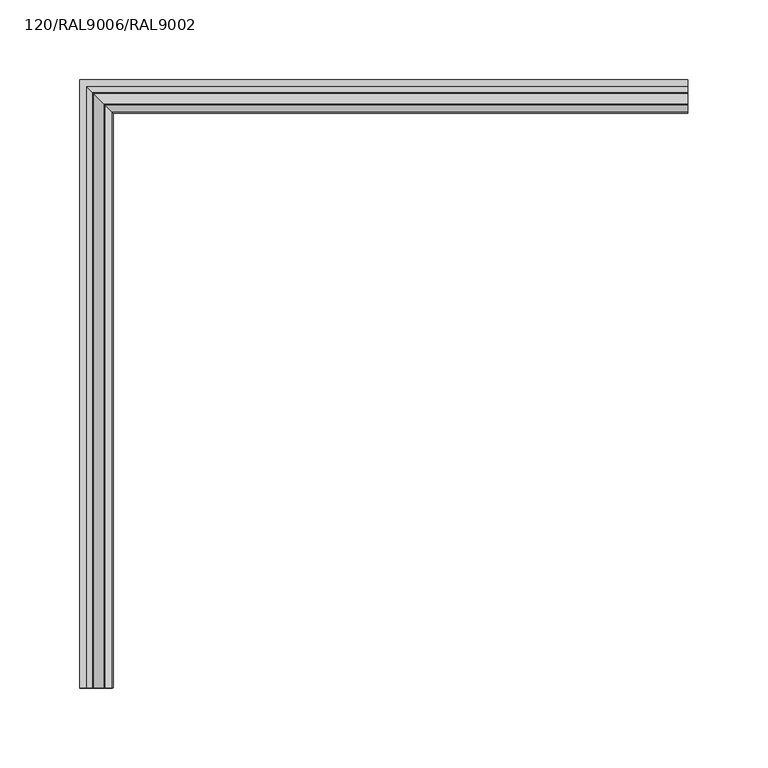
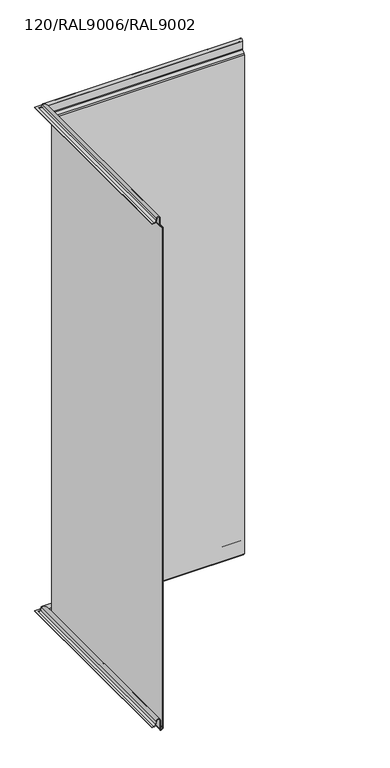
"""IFC4 building model written with IfcOpenShell, lengths in millimetres: plate geometry, TR_C_H_FTV_Corner_Tr_B : 120/RAL9006/RAL9002."""

from ifc_helpers import new_model, si_unit, frame, origin, place, context, project, spatial, polyline, circle_curve, ellipse_curve, source, transform, mapped, element, save
from ifc_brep_helpers import plane_surface, cylinder_surface, revolved_surface, advanced_brep


def plate_120_ral9006_ral9002_f0a6c20e(model_context):
    return source(origin(), model_context, "Body", "AdvancedBrep", [
        advanced_brep(
        [(240.0, -99.0, 1000.6000012), (240.0, -103.1130328, 1000.6000012), (240.0, -106.8060618, 1003.6988205), (240.0, -107.5493748, 1007.9143577), (240.0, -114.0, 1007.3500012), (240.0, -114.0, 992.6000012), (240.0, -114.732233, 990.8322342), (240.0, -119.1213203, 986.4431469), (240.0, -120.0, 984.3218266), (240.0, -120.0, -5.018628), (240.0, -119.1945436, -6.9631716), (240.0, -117.3288582, -8.8288571), (240.0, -114.0, -7.4499988), (240.0, -114.0, 10.1500012), (240.0, -107.1524133, 10.7490874), (240.0, -106.085588, 4.6988205), (240.0, -102.3925589, 1.6000012), (240.0, -99.0, 1.6000012), (240.0, -99.0, 2.4000012), (240.0, -102.3925589, 2.4000012), (240.0, -105.2977418, 4.837739), (240.0, -106.364567, 10.8880059), (240.0, -114.8, 10.1500012), (240.0, -114.8, -7.4499988), (240.0, -116.7631728, -8.2631716), (240.0, -118.6288582, -6.3974862), (240.0, -119.2, -5.018628), (240.0, -119.2, 984.3218266), (240.0, -118.5556349, 985.8774615), (240.0, -114.1665476, 990.2665488), (240.0, -113.2, 992.6000012), (240.0, -113.2, 1007.3500012), (240.0, -108.337221, 1007.7754392), (240.0, -107.5939081, 1003.559902), (240.0, -103.1130328, 999.8000012), (240.0, -99.0, 999.8000012), (-141.0, -99.0, 1000.6000012), (-141.0, -480.0, 1000.6000012), (-136.8869672, -480.0, 1000.6000012), (-136.8869672, -103.1130328, 1000.6000012), (-133.1939382, -106.8060618, 1003.6988205), (-132.4506252, -107.5493748, 1007.9143577), (-126.0, -114.0, 1007.3500012), (-126.0, -114.0, 992.6000012), (-125.267767, -114.732233, 990.8322342), (-120.8786797, -119.1213203, 986.4431469), (-120.0, -120.0, 984.3218266), (-120.0, -120.0, -5.018628), (-120.8054564, -119.1945436, -6.9631716), (-122.6711418, -117.3288582, -8.8288571), (-126.0, -114.0, -7.4499988), (-126.0, -114.0, 10.1500012), (-132.8475867, -107.1524133, 10.7490874), (-133.914412, -106.085588, 4.6988205), (-137.6074411, -102.3925589, 1.6000012), (-137.6074411, -480.0, 1.6000012), (-141.0, -480.0, 1.6000012), (-141.0, -99.0, 1.6000012), (-141.0, -99.0, 2.4000012), (-141.0, -480.0, 2.4000012), (-137.6074411, -480.0, 2.4000012), (-137.6074411, -102.3925589, 2.4000012), (-134.7022582, -105.2977418, 4.837739), (-133.635433, -106.364567, 10.8880059), (-125.2, -114.8, 10.1500012), (-125.2, -114.8, -7.4499988), (-123.2368272, -116.7631728, -8.2631716), (-121.3711418, -118.6288582, -6.3974862), (-120.8, -119.2, -5.018628), (-120.8, -119.2, 984.3218266), (-121.4443651, -118.5556349, 985.8774615), (-125.8334524, -114.1665476, 990.2665488), (-126.8, -113.2, 992.6000012), (-126.8, -113.2, 1007.3500012), (-131.662779, -108.337221, 1007.7754392), (-132.4060919, -107.5939081, 1003.559902), (-136.8869672, -103.1130328, 999.8000012), (-136.8869672, -480.0, 999.8000012), (-141.0, -480.0, 999.8000012), (-141.0, -99.0, 999.8000012), (-132.4060919, -480.0, 1003.559902), (-131.662779, -480.0, 1007.7754392), (-126.8, -480.0, 1007.3500012), (-126.8, -480.0, 992.6000012), (-125.8334524, -480.0, 990.2665488), (-121.4443651, -480.0, 985.8774615), (-120.8, -480.0, 984.3218266), (-120.8, -480.0, -5.018628), (-121.3711418, -480.0, -6.3974862), (-123.2368272, -480.0, -8.2631716), (-125.2, -480.0, -7.4499988), (-125.2, -480.0, 10.1500012), (-133.635433, -480.0, 10.8880059), (-134.7022582, -480.0, 4.837739), (-133.914412, -480.0, 4.6988205), (-132.8475867, -480.0, 10.7490874), (-126.0, -480.0, 10.1500012), (-126.0, -480.0, -7.4499988), (-122.6711418, -480.0, -8.8288571), (-120.8054564, -480.0, -6.9631716), (-120.0, -480.0, -5.018628), (-120.0, -480.0, 984.3218266), (-120.8786797, -480.0, 986.4431469), (-125.267767, -480.0, 990.8322342), (-126.0, -480.0, 992.6000012), (-126.0, -480.0, 1007.3500012), (-132.4506252, -480.0, 1007.9143577), (-133.1939382, -480.0, 1003.6988205)],
        [
            (0, 1),
            (1, 2, circle_curve(frame((240.0, -103.1130328, 1004.3500012), z_axis=(-1.0, 0.0, 0.0), x_axis=(0.0, -1.0, 0.0)), 3.75)),
            (2, 3),
            (3, 4, circle_curve(frame((240.0, -110.75, 1007.3500012), z_axis=(1.0, 0.0, 0.0), x_axis=(0.0, -1.0, 0.0)), 3.25)),
            (4, 5),
            (5, 6, circle_curve(frame((240.0, -116.5, 992.6000012), z_axis=(-1.0, 0.0, 0.0), x_axis=(0.0, -1.0, 0.0)), 2.5)),
            (6, 7),
            (7, 8, circle_curve(frame((240.0, -117.0, 984.3218266), z_axis=(1.0, 0.0, 0.0), x_axis=(0.0, -1.0, 0.0)), 3.0)),
            (8, 9),
            (9, 10, circle_curve(frame((240.0, -117.25, -5.018628), z_axis=(1.0, 0.0, 0.0), x_axis=(0.0, -1.0, 0.0)), 2.75)),
            (10, 11),
            (11, 12, circle_curve(frame((240.0, -115.95, -7.4499988), z_axis=(1.0, 0.0, 0.0), x_axis=(0.0, -1.0, 0.0)), 1.95)),
            (12, 13),
            (13, 14, circle_curve(frame((240.0, -110.55, 10.1500012), z_axis=(-1.0, 0.0, 0.0), x_axis=(0.0, -1.0, 0.0)), 3.45)),
            (14, 15),
            (15, 16, circle_curve(frame((240.0, -102.3925589, 5.3500012), z_axis=(1.0, 0.0, 0.0), x_axis=(0.0, -1.0, 0.0)), 3.75)),
            (16, 17),
            (17, 18),
            (18, 19),
            (19, 20, circle_curve(frame((240.0, -102.3925589, 5.3500012), z_axis=(-1.0, 0.0, 0.0), x_axis=(0.0, -1.0, 0.0)), 2.95)),
            (20, 21),
            (21, 22, circle_curve(frame((240.0, -110.55, 10.1500012), z_axis=(1.0, 0.0, 0.0), x_axis=(0.0, -1.0, 0.0)), 4.25)),
            (22, 23),
            (23, 24, circle_curve(frame((240.0, -115.95, -7.4499988), z_axis=(-1.0, 0.0, 0.0), x_axis=(0.0, -1.0, 0.0)), 1.15)),
            (24, 25),
            (25, 26, circle_curve(frame((240.0, -117.25, -5.018628), z_axis=(-1.0, 0.0, 0.0), x_axis=(0.0, -1.0, 0.0)), 1.95)),
            (26, 27),
            (27, 28, circle_curve(frame((240.0, -117.0, 984.3218266), z_axis=(-1.0, 0.0, 0.0), x_axis=(0.0, -1.0, 0.0)), 2.2)),
            (28, 29),
            (29, 30, circle_curve(frame((240.0, -116.5, 992.6000012), z_axis=(1.0, 0.0, 0.0), x_axis=(0.0, -1.0, 0.0)), 3.3)),
            (30, 31),
            (31, 32, circle_curve(frame((240.0, -110.75, 1007.3500012), z_axis=(-1.0, 0.0, 0.0), x_axis=(0.0, -1.0, 0.0)), 2.45)),
            (32, 33),
            (33, 34, circle_curve(frame((240.0, -103.1130328, 1004.3500012), z_axis=(1.0, 0.0, 0.0), x_axis=(0.0, -1.0, 0.0)), 4.55)),
            (34, 35),
            (35, 0),
            (0, 36),
            (36, 37),
            (37, 38),
            (38, 39),
            (39, 1),
            (39, 40, ellipse_curve(frame((-136.8869672, -103.1130328, 1004.3500012), z_axis=(-0.7071067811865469, -0.7071067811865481, 0.0), x_axis=(-0.7071067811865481, 0.7071067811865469, 0.0)), 5.3033009, 3.75)),
            (40, 2),
            (40, 41),
            (41, 3),
            (41, 42, ellipse_curve(frame((-129.25, -110.75, 1007.3500012), z_axis=(0.7071067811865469, 0.7071067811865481, 0.0), x_axis=(0.7071067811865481, -0.7071067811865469, 0.0)), 4.5961941, 3.25)),
            (42, 4),
            (42, 43),
            (43, 5),
            (43, 44, ellipse_curve(frame((-123.5, -116.5, 992.6000012), z_axis=(-0.7071067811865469, -0.7071067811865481, 0.0), x_axis=(-0.7071067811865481, 0.7071067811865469, 0.0)), 3.5355339, 2.5)),
            (44, 6),
            (44, 45),
            (45, 7),
            (45, 46, ellipse_curve(frame((-123.0, -117.0, 984.3218266), z_axis=(0.7071067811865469, 0.7071067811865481, 0.0), x_axis=(0.7071067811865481, -0.7071067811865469, 0.0)), 4.2426407, 3.0)),
            (46, 8),
            (46, 47),
            (47, 9),
            (47, 48, ellipse_curve(frame((-122.75, -117.25, -5.018628), z_axis=(0.7071067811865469, 0.7071067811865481, 0.0), x_axis=(0.7071067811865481, -0.7071067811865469, 0.0)), 3.8890873, 2.75)),
            (48, 10),
            (48, 49),
            (49, 11),
            (49, 50, ellipse_curve(frame((-124.05, -115.95, -7.4499988), z_axis=(0.7071067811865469, 0.7071067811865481, 0.0), x_axis=(0.7071067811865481, -0.7071067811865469, 0.0)), 2.7577164, 1.95)),
            (50, 12),
            (50, 51),
            (51, 13),
            (51, 52, ellipse_curve(frame((-129.45, -110.55, 10.1500012), z_axis=(-0.7071067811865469, -0.7071067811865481, 0.0), x_axis=(-0.7071067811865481, 0.7071067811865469, 0.0)), 4.8790368, 3.45)),
            (52, 14),
            (52, 53),
            (53, 15),
            (53, 54, ellipse_curve(frame((-137.6074411, -102.3925589, 5.3500012), z_axis=(0.7071067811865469, 0.7071067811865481, 0.0), x_axis=(0.7071067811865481, -0.7071067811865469, 0.0)), 5.3033009, 3.75)),
            (54, 16),
            (54, 55),
            (55, 56),
            (56, 57),
            (57, 17),
            (57, 58),
            (58, 18),
            (58, 59),
            (59, 60),
            (60, 61),
            (61, 19),
            (61, 62, ellipse_curve(frame((-137.6074411, -102.3925589, 5.3500012), z_axis=(-0.7071067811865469, -0.7071067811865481, 0.0), x_axis=(-0.7071067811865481, 0.7071067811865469, 0.0)), 4.17193, 2.95)),
            (62, 20),
            (62, 63),
            (63, 21),
            (63, 64, ellipse_curve(frame((-129.45, -110.55, 10.1500012), z_axis=(0.7071067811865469, 0.7071067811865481, 0.0), x_axis=(0.7071067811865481, -0.7071067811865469, 0.0)), 6.0104076, 4.25)),
            (64, 22),
            (64, 65),
            (65, 23),
            (65, 66, ellipse_curve(frame((-124.05, -115.95, -7.4499988), z_axis=(-0.7071067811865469, -0.7071067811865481, 0.0), x_axis=(-0.7071067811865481, 0.7071067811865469, 0.0)), 1.6263456, 1.15)),
            (66, 24),
            (66, 67),
            (67, 25),
            (67, 68, ellipse_curve(frame((-122.75, -117.25, -5.018628), z_axis=(-0.7071067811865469, -0.7071067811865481, 0.0), x_axis=(-0.7071067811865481, 0.7071067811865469, 0.0)), 2.7577164, 1.95)),
            (68, 26),
            (68, 69),
            (69, 27),
            (69, 70, ellipse_curve(frame((-123.0, -117.0, 984.3218266), z_axis=(-0.7071067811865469, -0.7071067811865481, 0.0), x_axis=(-0.7071067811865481, 0.7071067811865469, 0.0)), 3.1112698, 2.2)),
            (70, 28),
            (70, 71),
            (71, 29),
            (71, 72, ellipse_curve(frame((-123.5, -116.5, 992.6000012), z_axis=(0.7071067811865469, 0.7071067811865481, 0.0), x_axis=(0.7071067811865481, -0.7071067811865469, 0.0)), 4.6669048, 3.3)),
            (72, 30),
            (72, 73),
            (73, 31),
            (73, 74, ellipse_curve(frame((-129.25, -110.75, 1007.3500012), z_axis=(-0.7071067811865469, -0.7071067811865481, 0.0), x_axis=(-0.7071067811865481, 0.7071067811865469, 0.0)), 3.4648232, 2.45)),
            (74, 32),
            (74, 75),
            (75, 33),
            (75, 76, ellipse_curve(frame((-136.8869672, -103.1130328, 1004.3500012), z_axis=(0.7071067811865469, 0.7071067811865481, 0.0), x_axis=(0.7071067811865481, -0.7071067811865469, 0.0)), 6.4346717, 4.55)),
            (76, 34),
            (76, 77),
            (77, 78),
            (78, 79),
            (79, 35),
            (79, 36),
            (37, 78),
            (77, 80, circle_curve(frame((-136.8869672, -480.0, 1004.3500012), z_axis=(0.0, -1.0, 0.0), x_axis=(1.0, 0.0, 0.0)), 4.55)),
            (80, 81),
            (81, 82, circle_curve(frame((-129.25, -480.0, 1007.3500012), z_axis=(0.0, 1.0, 0.0), x_axis=(1.0, 0.0, 0.0)), 2.45)),
            (82, 83),
            (83, 84, circle_curve(frame((-123.5, -480.0, 992.6000012), z_axis=(0.0, -1.0, 0.0), x_axis=(1.0, 0.0, 0.0)), 3.3)),
            (84, 85),
            (85, 86, circle_curve(frame((-123.0, -480.0, 984.3218266), z_axis=(0.0, 1.0, 0.0), x_axis=(1.0, 0.0, 0.0)), 2.2)),
            (86, 87),
            (87, 88, circle_curve(frame((-122.75, -480.0, -5.018628), z_axis=(0.0, 1.0, 0.0), x_axis=(1.0, 0.0, 0.0)), 1.95)),
            (88, 89),
            (89, 90, circle_curve(frame((-124.05, -480.0, -7.4499988), z_axis=(0.0, 1.0, 0.0), x_axis=(1.0, 0.0, 0.0)), 1.15)),
            (90, 91),
            (91, 92, circle_curve(frame((-129.45, -480.0, 10.1500012), z_axis=(0.0, -1.0, 0.0), x_axis=(1.0, 0.0, 0.0)), 4.25)),
            (92, 93),
            (93, 60, circle_curve(frame((-137.6074411, -480.0, 5.3500012), z_axis=(0.0, 1.0, 0.0), x_axis=(1.0, 0.0, 0.0)), 2.95)),
            (59, 56),
            (55, 94, circle_curve(frame((-137.6074411, -480.0, 5.3500012), z_axis=(0.0, -1.0, 0.0), x_axis=(1.0, 0.0, 0.0)), 3.75)),
            (94, 95),
            (95, 96, circle_curve(frame((-129.45, -480.0, 10.1500012), z_axis=(0.0, 1.0, 0.0), x_axis=(1.0, 0.0, 0.0)), 3.45)),
            (96, 97),
            (97, 98, circle_curve(frame((-124.05, -480.0, -7.4499988), z_axis=(0.0, -1.0, 0.0), x_axis=(1.0, 0.0, 0.0)), 1.95)),
            (98, 99),
            (99, 100, circle_curve(frame((-122.75, -480.0, -5.018628), z_axis=(0.0, -1.0, 0.0), x_axis=(1.0, 0.0, 0.0)), 2.75)),
            (100, 101),
            (101, 102, circle_curve(frame((-123.0, -480.0, 984.3218266), z_axis=(0.0, -1.0, 0.0), x_axis=(1.0, 0.0, 0.0)), 3.0)),
            (102, 103),
            (103, 104, circle_curve(frame((-123.5, -480.0, 992.6000012), z_axis=(0.0, 1.0, 0.0), x_axis=(1.0, 0.0, 0.0)), 2.5)),
            (104, 105),
            (105, 106, circle_curve(frame((-129.25, -480.0, 1007.3500012), z_axis=(0.0, -1.0, 0.0), x_axis=(1.0, 0.0, 0.0)), 3.25)),
            (106, 107),
            (107, 38, circle_curve(frame((-136.8869672, -480.0, 1004.3500012), z_axis=(0.0, 1.0, 0.0), x_axis=(1.0, 0.0, 0.0)), 3.75)),
            (107, 40),
            (106, 41),
            (105, 42),
            (104, 43),
            (103, 44),
            (102, 45),
            (101, 46),
            (100, 47),
            (99, 48),
            (98, 49),
            (97, 50),
            (96, 51),
            (95, 52),
            (94, 53),
            (93, 62),
            (92, 63),
            (91, 64),
            (90, 65),
            (89, 66),
            (88, 67),
            (87, 68),
            (86, 69),
            (85, 70),
            (84, 71),
            (83, 72),
            (82, 73),
            (81, 74),
            (80, 75),
        ],
        [
            plane_surface(frame((240.0, 0.0, 0.0), z_axis=(1.0, 0.0, 0.0), x_axis=(0.0, 0.0, 1.0))),
            plane_surface(frame((240.0, -99.0, 1000.6000012), z_axis=(0.0, 0.0, 1.0), x_axis=(-1.0, 0.0, 0.0))),
            revolved_surface(polyline([(-140.6369672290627, -106.8630328, 1004.3500012), (240.0, -106.8630328, 1004.3500012)]), (240.0, -103.1130328, 1004.3500012), (-1.0, 0.0, 0.0)),
            plane_surface(frame((240.0, -106.8060618, 1003.6988205), z_axis=(0.0, 0.9848077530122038, 0.17364817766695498), x_axis=(-1.0, 0.0, 0.0))),
            cylinder_surface(frame((240.0, -110.75, 1007.3500012), z_axis=(1.0, 0.0, 0.0), x_axis=(0.0, -1.0, 0.0)), 3.25),
            plane_surface(frame((240.0, -114.0, 1007.3500012), z_axis=(0.0, -1.0, 0.0), x_axis=(-1.0, 0.0, 0.0))),
            revolved_surface(polyline([(-126.0, -119.0, 992.6000012), (240.0, -119.0, 992.6000012)]), (240.0, -116.5, 992.6000012), (-1.0, 0.0, 0.0)),
            plane_surface(frame((240.0, -114.732233, 990.8322342), z_axis=(0.0, -0.7071067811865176, 0.7071067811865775), x_axis=(-1.0, 0.0, 0.0))),
            cylinder_surface(frame((240.0, -117.0, 984.3218266), z_axis=(1.0, 0.0, 0.0), x_axis=(0.0, -1.0, 0.0)), 3.0),
            plane_surface(frame((240.0, -120.0, 984.3218266), z_axis=(0.0, -1.0, 0.0), x_axis=(-1.0, 0.0, 0.0))),
            cylinder_surface(frame((240.0, -117.25, -5.018628), z_axis=(1.0, 0.0, 0.0), x_axis=(0.0, -1.0, 0.0)), 2.75),
            plane_surface(frame((240.0, -119.1945436, -6.9631716), z_axis=(0.0, -0.7071067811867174, -0.7071067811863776), x_axis=(-1.0, 0.0, 0.0))),
            cylinder_surface(frame((240.0, -115.95, -7.4499988), z_axis=(1.0, 0.0, 0.0), x_axis=(0.0, -1.0, 0.0)), 1.95),
            plane_surface(frame((240.0, -114.0, -7.4499988), z_axis=(0.0, 1.0, 0.0), x_axis=(-1.0, 0.0, 0.0))),
            revolved_surface(polyline([(-132.90000000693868, -114.0, 10.1500012), (240.0, -114.0, 10.1500012)]), (240.0, -110.55, 10.1500012), (-1.0, 0.0, 0.0)),
            plane_surface(frame((240.0, -107.1524133, 10.7490874), z_axis=(0.0, -0.9848077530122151, -0.1736481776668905), x_axis=(-1.0, 0.0, 0.0))),
            cylinder_surface(frame((240.0, -102.3925589, 5.3500012), z_axis=(1.0, 0.0, 0.0), x_axis=(0.0, -1.0, 0.0)), 3.75),
            plane_surface(frame((240.0, -102.3925589, 1.6000012), z_axis=(0.0, 0.0, -1.0), x_axis=(-1.0, 0.0, 0.0))),
            plane_surface(frame((240.0, -99.0, 1.6000012), z_axis=(0.0, 1.0, 0.0), x_axis=(-1.0, 0.0, 0.0))),
            plane_surface(frame((240.0, -99.0, 2.4000012), z_axis=(0.0, 0.0, 1.0), x_axis=(-1.0, 0.0, 0.0))),
            revolved_surface(polyline([(-140.55744109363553, -105.3425589, 5.3500012), (240.0, -105.3425589, 5.3500012)]), (240.0, -102.3925589, 5.3500012), (-1.0, 0.0, 0.0)),
            plane_surface(frame((240.0, -105.2977418, 4.837739), z_axis=(0.0, 0.9848077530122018, 0.1736481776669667), x_axis=(-1.0, 0.0, 0.0))),
            cylinder_surface(frame((240.0, -110.55, 10.1500012), z_axis=(1.0, 0.0, 0.0), x_axis=(0.0, -1.0, 0.0)), 4.25),
            plane_surface(frame((240.0, -114.8, 10.1500012), z_axis=(0.0, -1.0, 0.0), x_axis=(-1.0, 0.0, 0.0))),
            revolved_surface(polyline([(-125.20000000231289, -117.10000000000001, -7.4499988), (240.0, -117.10000000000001, -7.4499988)]), (240.0, -115.95, -7.4499988), (-1.0, 0.0, 0.0)),
            plane_surface(frame((240.0, -116.7631728, -8.2631716), z_axis=(0.0, 0.7071067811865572, 0.7071067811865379), x_axis=(-1.0, 0.0, 0.0))),
            revolved_surface(polyline([(-124.69999996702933, -119.2, -5.018628), (240.0, -119.2, -5.018628)]), (240.0, -117.25, -5.018628), (-1.0, 0.0, 0.0)),
            plane_surface(frame((240.0, -119.2, -5.018628), z_axis=(0.0, 1.0, 0.0), x_axis=(-1.0, 0.0, 0.0))),
            revolved_surface(polyline([(-125.19999997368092, -119.2, 984.3218266), (240.0, -119.2, 984.3218266)]), (240.0, -117.0, 984.3218266), (-1.0, 0.0, 0.0)),
            plane_surface(frame((240.0, -118.5556349, 985.8774615), z_axis=(0.0, 0.7071067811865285, -0.7071067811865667), x_axis=(-1.0, 0.0, 0.0))),
            cylinder_surface(frame((240.0, -116.5, 992.6000012), z_axis=(1.0, 0.0, 0.0), x_axis=(0.0, -1.0, 0.0)), 3.3),
            plane_surface(frame((240.0, -113.2, 992.6000012), z_axis=(0.0, 1.0, 0.0), x_axis=(-1.0, 0.0, 0.0))),
            revolved_surface(polyline([(-131.69999998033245, -113.2, 1007.3500012), (240.0, -113.2, 1007.3500012)]), (240.0, -110.75, 1007.3500012), (-1.0, 0.0, 0.0)),
            plane_surface(frame((240.0, -108.337221, 1007.7754392), z_axis=(0.0, -0.9848077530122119, -0.173648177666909), x_axis=(-1.0, 0.0, 0.0))),
            cylinder_surface(frame((240.0, -103.1130328, 1004.3500012), z_axis=(1.0, 0.0, 0.0), x_axis=(0.0, -1.0, 0.0)), 4.55),
            plane_surface(frame((240.0, -103.1130328, 999.8000012), z_axis=(0.0, 0.0, -1.0), x_axis=(-1.0, 0.0, 0.0))),
            plane_surface(frame((240.0, -99.0, 999.8000012), z_axis=(0.0, 1.0, 0.0), x_axis=(-1.0, 0.0, 0.0))),
            plane_surface(frame((-240.0, -480.0, 0.0), z_axis=(0.0, -1.0, 0.0), x_axis=(0.0, 0.0, 1.0))),
            revolved_surface(polyline([(-133.1369672, -480.0, 1004.3500012), (-133.1369672, -99.36303277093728, 1004.3500012)]), (-136.8869672, 0.0, 1004.3500012), (0.0, -1.0, 0.0)),
            plane_surface(frame((-133.1939382, -106.8060618, 1003.6988205), z_axis=(-0.9848077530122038, 0.0, 0.17364817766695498), x_axis=(0.0, -1.0, 0.0))),
            cylinder_surface(frame((-129.25, 0.0, 1007.3500012), z_axis=(0.0, 1.0, 0.0), x_axis=(1.0, 0.0, 0.0)), 3.25),
            plane_surface(frame((-126.0, -114.0, 1007.3500012), z_axis=(1.0, 0.0, 0.0), x_axis=(0.0, -1.0, 0.0))),
            revolved_surface(polyline([(-121.0, -480.0, 992.6000012), (-121.0, -114.0, 992.6000012)]), (-123.5, 0.0, 992.6000012), (0.0, -1.0, 0.0)),
            plane_surface(frame((-125.267767, -114.732233, 990.8322342), z_axis=(0.7071067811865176, 0.0, 0.7071067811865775), x_axis=(0.0, -1.0, 0.0))),
            cylinder_surface(frame((-123.0, 0.0, 984.3218266), z_axis=(0.0, 1.0, 0.0), x_axis=(1.0, 0.0, 0.0)), 3.0),
            plane_surface(frame((-120.0, -120.0, 984.3218266), z_axis=(1.0, 0.0, 0.0), x_axis=(0.0, -1.0, 0.0))),
            cylinder_surface(frame((-122.75, 0.0, -5.018628), z_axis=(0.0, 1.0, 0.0), x_axis=(1.0, 0.0, 0.0)), 2.75),
            plane_surface(frame((-120.8054564, -119.1945436, -6.9631716), z_axis=(0.7071067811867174, 0.0, -0.7071067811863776), x_axis=(0.0, -1.0, 0.0))),
            cylinder_surface(frame((-124.05, 0.0, -7.4499988), z_axis=(0.0, 1.0, 0.0), x_axis=(1.0, 0.0, 0.0)), 1.95),
            plane_surface(frame((-126.0, -114.0, -7.4499988), z_axis=(-1.0, 0.0, 0.0), x_axis=(0.0, -1.0, 0.0))),
            revolved_surface(polyline([(-125.99999999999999, -480.0, 10.1500012), (-125.99999999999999, -107.09999999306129, 10.1500012)]), (-129.45, 0.0, 10.1500012), (0.0, -1.0, 0.0)),
            plane_surface(frame((-132.8475867, -107.1524133, 10.7490874), z_axis=(0.9848077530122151, 0.0, -0.1736481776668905), x_axis=(0.0, -1.0, 0.0))),
            cylinder_surface(frame((-137.6074411, 0.0, 5.3500012), z_axis=(0.0, 1.0, 0.0), x_axis=(1.0, 0.0, 0.0)), 3.75),
            plane_surface(frame((-141.0, -99.0, 1.6000012), z_axis=(-1.0, 0.0, 0.0), x_axis=(0.0, -1.0, 0.0))),
            revolved_surface(polyline([(-134.6574411, -480.0, 5.3500012), (-134.6574411, -99.44255890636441, 5.3500012)]), (-137.6074411, 0.0, 5.3500012), (0.0, -1.0, 0.0)),
            plane_surface(frame((-134.7022582, -105.2977418, 4.837739), z_axis=(-0.9848077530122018, 0.0, 0.1736481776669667), x_axis=(0.0, -1.0, 0.0))),
            cylinder_surface(frame((-129.45, 0.0, 10.1500012), z_axis=(0.0, 1.0, 0.0), x_axis=(1.0, 0.0, 0.0)), 4.25),
            plane_surface(frame((-125.2, -114.8, 10.1500012), z_axis=(1.0, 0.0, 0.0), x_axis=(0.0, -1.0, 0.0))),
            revolved_surface(polyline([(-122.89999999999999, -480.0, -7.4499988), (-122.89999999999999, -114.7999999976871, -7.4499988)]), (-124.05, 0.0, -7.4499988), (0.0, -1.0, 0.0)),
            plane_surface(frame((-123.2368272, -116.7631728, -8.2631716), z_axis=(-0.7071067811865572, 0.0, 0.7071067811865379), x_axis=(0.0, -1.0, 0.0))),
            revolved_surface(polyline([(-120.8, -480.0, -5.018628), (-120.8, -115.30000003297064, -5.018628)]), (-122.75, 0.0, -5.018628), (0.0, -1.0, 0.0)),
            plane_surface(frame((-120.8, -119.2, -5.018628), z_axis=(-1.0, 0.0, 0.0), x_axis=(0.0, -1.0, 0.0))),
            revolved_surface(polyline([(-120.8, -480.0, 984.3218266), (-120.8, -114.80000002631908, 984.3218266)]), (-123.0, 0.0, 984.3218266), (0.0, -1.0, 0.0)),
            plane_surface(frame((-121.4443651, -118.5556349, 985.8774615), z_axis=(-0.7071067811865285, 0.0, -0.7071067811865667), x_axis=(0.0, -1.0, 0.0))),
            cylinder_surface(frame((-123.5, 0.0, 992.6000012), z_axis=(0.0, 1.0, 0.0), x_axis=(1.0, 0.0, 0.0)), 3.3),
            plane_surface(frame((-126.8, -113.2, 992.6000012), z_axis=(-1.0, 0.0, 0.0), x_axis=(0.0, -1.0, 0.0))),
            revolved_surface(polyline([(-126.8, -480.0, 1007.3500012), (-126.8, -108.30000001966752, 1007.3500012)]), (-129.25, 0.0, 1007.3500012), (0.0, -1.0, 0.0)),
            plane_surface(frame((-131.662779, -108.337221, 1007.7754392), z_axis=(0.9848077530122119, 0.0, -0.173648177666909), x_axis=(0.0, -1.0, 0.0))),
            cylinder_surface(frame((-136.8869672, 0.0, 1004.3500012), z_axis=(0.0, 1.0, 0.0), x_axis=(1.0, 0.0, 0.0)), 4.55),
            plane_surface(frame((-141.0, -99.0, 999.8000012), z_axis=(-1.0, 0.0, 0.0), x_axis=(0.0, -1.0, 0.0))),
        ],
        [
            (0, [[1, 2, 3, 4, 5, 6, 7, 8, 9, 10, 11, 12, 13, 14, 15, 16, 17, 18, 19, 20, 21, 22, 23, 24, 25, 26, 27, 28, 29, 30, 31, 32, 33, 34, 35, 36]]),
            (1, [[-1, 37, 38, 39, 40, 41]]),
            (2, [[-2, -41, 42, 43]]),
            (3, [[-3, -43, 44, 45]]),
            (4, [[-4, -45, 46, 47]]),
            (5, [[-5, -47, 48, 49]]),
            (6, [[-6, -49, 50, 51]]),
            (7, [[-7, -51, 52, 53]]),
            (8, [[-8, -53, 54, 55]]),
            (9, [[-9, -55, 56, 57]]),
            (10, [[-10, -57, 58, 59]]),
            (11, [[-11, -59, 60, 61]]),
            (12, [[-12, -61, 62, 63]]),
            (13, [[-13, -63, 64, 65]]),
            (14, [[-14, -65, 66, 67]]),
            (15, [[-15, -67, 68, 69]]),
            (16, [[-16, -69, 70, 71]]),
            (17, [[-17, -71, 72, 73, 74, 75]]),
            (18, [[-18, -75, 76, 77]]),
            (19, [[-19, -77, 78, 79, 80, 81]]),
            (20, [[-20, -81, 82, 83]]),
            (21, [[-21, -83, 84, 85]]),
            (22, [[-22, -85, 86, 87]]),
            (23, [[-23, -87, 88, 89]]),
            (24, [[-24, -89, 90, 91]]),
            (25, [[-25, -91, 92, 93]]),
            (26, [[-26, -93, 94, 95]]),
            (27, [[-27, -95, 96, 97]]),
            (28, [[-28, -97, 98, 99]]),
            (29, [[-29, -99, 100, 101]]),
            (30, [[-30, -101, 102, 103]]),
            (31, [[-31, -103, 104, 105]]),
            (32, [[-32, -105, 106, 107]]),
            (33, [[-33, -107, 108, 109]]),
            (34, [[-34, -109, 110, 111]]),
            (35, [[-35, -111, 112, 113, 114, 115]]),
            (36, [[-36, -115, 116, -37]]),
            (37, [[117, -113, 118, 119, 120, 121, 122, 123, 124, 125, 126, 127, 128, 129, 130, 131, 132, -79, 133, -73, 134, 135, 136, 137, 138, 139, 140, 141, 142, 143, 144, 145, 146, 147, 148, -39]]),
            (38, [[-42, -40, -148, 149]]),
            (39, [[-44, -149, -147, 150]]),
            (40, [[-46, -150, -146, 151]]),
            (41, [[-48, -151, -145, 152]]),
            (42, [[-50, -152, -144, 153]]),
            (43, [[-52, -153, -143, 154]]),
            (44, [[-54, -154, -142, 155]]),
            (45, [[-56, -155, -141, 156]]),
            (46, [[-58, -156, -140, 157]]),
            (47, [[-60, -157, -139, 158]]),
            (48, [[-62, -158, -138, 159]]),
            (49, [[-64, -159, -137, 160]]),
            (50, [[-66, -160, -136, 161]]),
            (51, [[-68, -161, -135, 162]]),
            (52, [[-70, -162, -134, -72]]),
            (53, [[-76, -74, -133, -78]]),
            (54, [[-82, -80, -132, 163]]),
            (55, [[-84, -163, -131, 164]]),
            (56, [[-86, -164, -130, 165]]),
            (57, [[-88, -165, -129, 166]]),
            (58, [[-90, -166, -128, 167]]),
            (59, [[-92, -167, -127, 168]]),
            (60, [[-94, -168, -126, 169]]),
            (61, [[-96, -169, -125, 170]]),
            (62, [[-98, -170, -124, 171]]),
            (63, [[-100, -171, -123, 172]]),
            (64, [[-102, -172, -122, 173]]),
            (65, [[-104, -173, -121, 174]]),
            (66, [[-106, -174, -120, 175]]),
            (67, [[-108, -175, -119, 176]]),
            (68, [[-110, -176, -118, -112]]),
            (69, [[-116, -114, -117, -38]]),
        ],
    ),
    ])


if __name__ == "__main__":
    model = new_model("IFC4")
    model_context = context("Model", 3, world=origin())
    ifc_project = project(units=[si_unit("LENGTHUNIT", "METRE", prefix="MILLI")], contexts=[model_context])
    site = spatial("IfcSite", under=ifc_project)
    building = spatial("IfcBuilding", under=site)
    placement = place(None, origin())
    plate_120_ral9006_ral9002_shape = plate_120_ral9006_ral9002_f0a6c20e(model_context)
    element("IfcPlate", 1, ObjectType="TR_C_H_FTV_Corner_Tr_B : 120/RAL9006/RAL9002", at=placement, inside=building, context=model_context, shape_type="MappedRepresentation", body=[
        mapped(plate_120_ral9006_ral9002_shape, transform((0.0, 0.0, 0.0), x_axis=(1.0, 0.0, 0.0), y_axis=(0.0, 1.0, 0.0), z_axis=(0.0, 0.0, 1.0))),
    ])
    save(model, "model.ifc")
